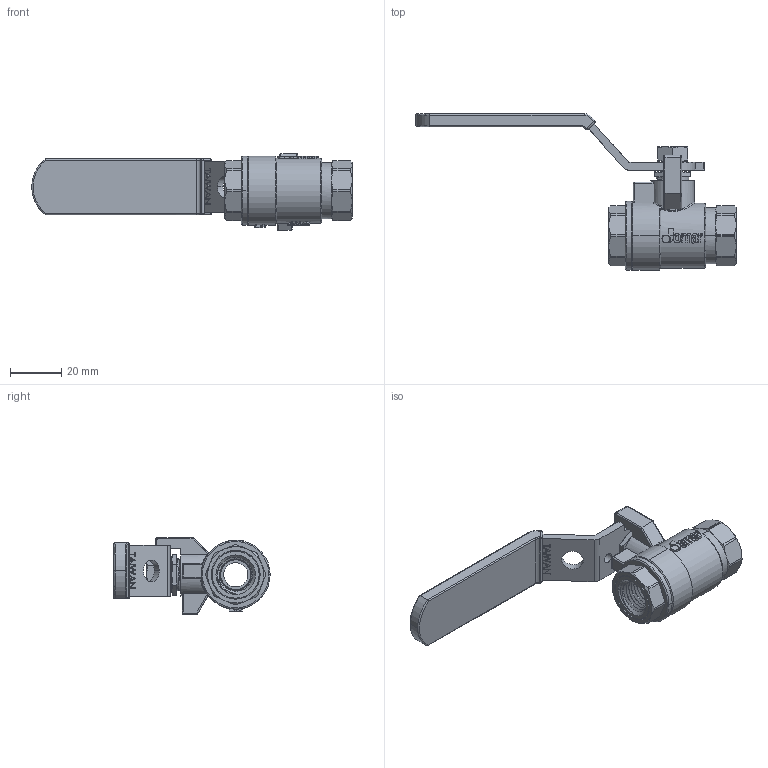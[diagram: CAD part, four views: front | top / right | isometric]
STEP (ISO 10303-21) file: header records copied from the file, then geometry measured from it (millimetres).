
FILE_DESCRIPTION (( 'STEP AP203' ), '1' );
FILE_NAME ('ABL721-µL±¾Âê-0.25''''JOMAR²y»ÖÅé²Õ¦X.STEP', '2026-04-13T01:39:44', ( '' ), ( '' ), 'SwSTEP 2.0', 'SolidWorks 2018', '' );
FILE_SCHEMA (( 'CONFIG_CONTROL_DESIGN' ));
Length unit declared in the file: millimetre
Products named in the file (13): EBL203B; BBL721A-0.25''''JOMAR球閥八角頭-有鉛-端面插溝; DN15-CBL723-HANDLE & SLEEVE 組合(黃色T膠套); GBL211; DN15-CBL211黃色膠套-T-200CSS; RBL261-無鑽孔; EBL203A; ABL721-無掛鎖-0.25''''JOMAR球閥體組合; TBL261A; BBL721-0.25''''JOMAR球閥體-有鉛-端面插溝-無LF; NBL262; CBL211; EBL201
Assembly tree (13 placements, depth 3):
  ABL721-無掛鎖-0.25''''JOMAR球閥體組合
    BBL721-0.25''''JOMAR球閥體-有鉛-端面插溝-無LF
    EBL203A
    EBL203B
    GBL211
    RBL261-無鑽孔
    BBL721A-0.25''''JOMAR球閥八角頭-有鉛-端面插溝
    NBL262
    EBL201  x2
    TBL261A
    DN15-CBL723-HANDLE & SLEEVE 組合(黃色T膠套)
      CBL211
      DN15-CBL211黃色膠套-T-200CSS
Bounding box: 125.5 x 61.21 x 30 mm (x, y, z)
Volume: 19996.6 mm3; surface area: 30106.5 mm2
Topology: 11 solids, 13 shells, 1473 faces, 4106 edges, 2761 vertices
Faces by surface type: plane 601, bspline 472, cylinder 234, cone 132, torus 22, sphere 12
Entity records: 88446 total; most frequent: CARTESIAN_POINT 53720, ORIENTED_EDGE 8128, DIRECTION 4940, EDGE_CURVE 4066, VERTEX_POINT 2741, LINE 1968, VECTOR 1968, EDGE_LOOP 1598
